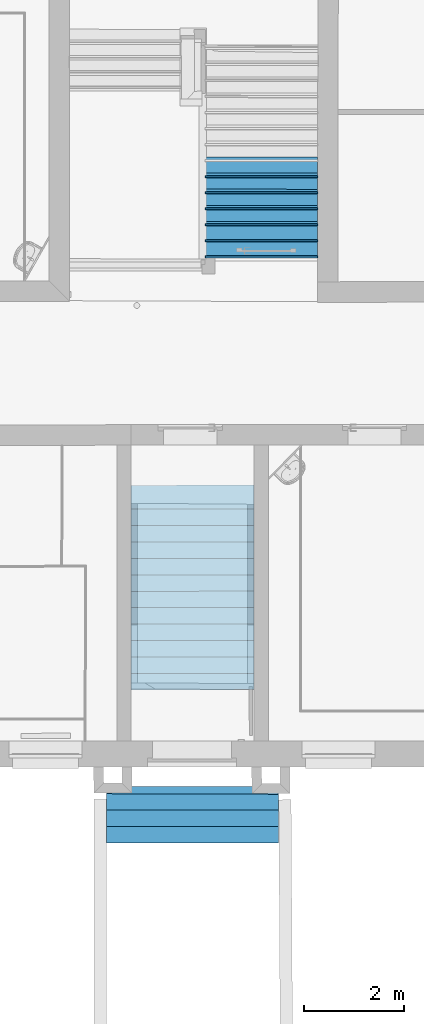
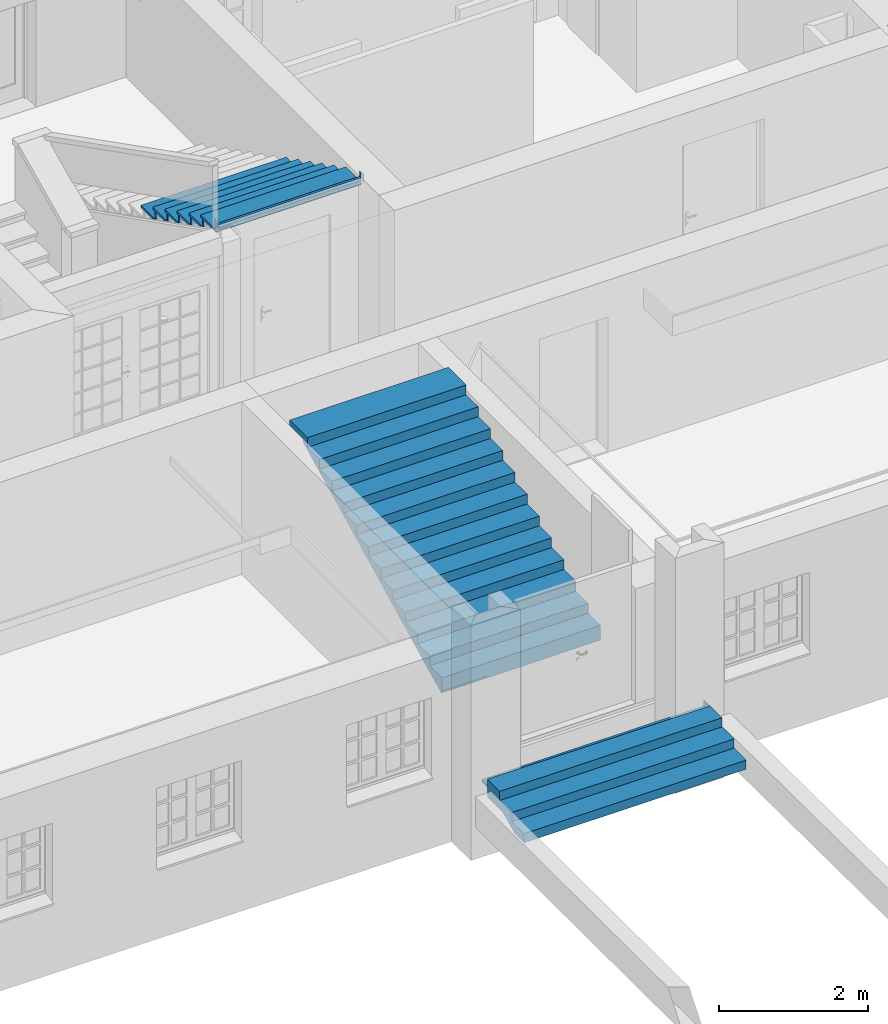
# One storey, part 135 of 196: 14 building element parts, 3 elements without a shape of their own.
"""IFC2X3 building model written with IfcOpenShell, lengths in metres."""

from ifc_helpers import new_model, entity, si_unit, converted_unit, derived_unit, money_unit, direction, frame, origin_with_axes, place, context, subcontext, project, spatial, open_shell, faceted_brep, surface_model, material, element, aggregate, save


model = new_model("IFC2X3")

# Units and contexts
model_context = context("Model", 3, precision=1e-05, world=origin_with_axes(), true_north=direction((0.0, 1.0)))
body_context = subcontext(model_context, "Body", "Model", "MODEL_VIEW")
ifc_project = project(units=[si_unit("LENGTHUNIT", "METRE"), si_unit("AREAUNIT", "SQUARE_METRE"), si_unit("VOLUMEUNIT", "CUBIC_METRE"), converted_unit("PLANEANGLEUNIT", "DEGREE", entity("IfcPlaneAngleMeasure", 0.0174532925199), si_unit("PLANEANGLEUNIT", "RADIAN"), dimensions=[0, 0, 0, 0, 0, 0, 0]), money_unit("EUR"), converted_unit("TIMEUNIT", "Year", entity("IfcTimeMeasure", 31556926.0), si_unit("TIMEUNIT", "SECOND"), dimensions=[0, 0, 1, 0, 0, 0, 0]), si_unit("MASSUNIT", "GRAM", prefix="KILO"), si_unit("THERMODYNAMICTEMPERATUREUNIT", "DEGREE_CELSIUS"), si_unit("LUMINOUSINTENSITYUNIT", "LUMEN"), si_unit("ENERGYUNIT", "JOULE", prefix="MEGA"), derived_unit("THERMALCONDUCTANCEUNIT", [(si_unit("POWERUNIT", "WATT"), 1), (si_unit("LENGTHUNIT", "METRE"), -1), (si_unit("THERMODYNAMICTEMPERATUREUNIT", "KELVIN"), -1)]), derived_unit("SPECIFICHEATCAPACITYUNIT", [(si_unit("ENERGYUNIT", "JOULE"), 1), (si_unit("MASSUNIT", "GRAM", prefix="KILO"), -1), (si_unit("THERMODYNAMICTEMPERATUREUNIT", "KELVIN"), -1)]), derived_unit("MASSDENSITYUNIT", [(si_unit("MASSUNIT", "GRAM", prefix="KILO"), 1), (si_unit("VOLUMEUNIT", "CUBIC_METRE"), -1)])], contexts=[model_context])

# Site, building, storey
site_placement = place(None, origin_with_axes())
site = spatial("IfcSite", under=ifc_project, at=site_placement, Name="Gelände", CompositionType="ELEMENT")
building_placement = place(site_placement, origin_with_axes())
building = spatial("IfcBuilding", under=site, at=building_placement, Name="Gebäude", CompositionType="ELEMENT")
storey_placement = place(building_placement, frame((0.0, 0.0, -3.0), z_axis=(0.0, 0.0, 1.0), x_axis=(1.0, 0.0, 0.0)))
storey = spatial("IfcBuildingStorey", under=building, at=storey_placement, Name="KELLERGESCHOSS", CompositionType="ELEMENT", Elevation=-3.0)

# Stair, building element part
stair_1_placement = place(storey_placement, frame((-9.10849058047, 8.42454757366, 0.45), z_axis=(0.0, 0.0, 1.0), x_axis=(1.0, 0.0, 0.0)))
stair_1 = element("IfcStair", 1, at=stair_1_placement, inside=storey, Name="Treppe-003", ShapeType="NOTDEFINED")
ifc_material = material(Name="05_ALLGEMEIN - TRAGENDE BAUTEILE")
building_element_part_1_placement = place(stair_1_placement, origin_with_axes())
building_element_part_1 = element("IfcBuildingElementPart", 2, at=building_element_part_1_placement, material=ifc_material, Name="05_ALLGEMEIN - TRAGENDE BAUTEILE", context=body_context, shape_type="SurfaceModel", body=[
    faceted_brep([(3.44006156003, 0.97279930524, 0.45), (0.0, 0.983829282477, 0.45), (0.0, 0.65305072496, 0.45), (3.453, 0.65305072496, 0.45), (3.453, 1.12957608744, 0.45), (3.4380452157, 1.12957608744, 0.45), (3.44006156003, 0.97279930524, 0.36), (0.0, 0.983829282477, 0.36), (0.0, 1.12957608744, 0.36), (0.0, 1.12957608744, 0.31), (0.0, 0.979576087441, 0.31), (0.0, 0.979576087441, 0.15), (0.0, 0.566079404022, 0.15), (0.0, 0.48978804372, 0.114953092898), (0.0, 0.4081567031, 0.0774530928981), (0.0, 0.32652536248, 0.0399530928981), (0.0, 0.24489402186, 0.00245309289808), (0.0, 0.239554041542, 0.0), (0.0, 0.0, 0.0), (0.0, 0.0, 0.15), (0.0, 0.32652536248, 0.15), (0.0, 0.32652536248, 0.3), (0.0, 0.65305072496, 0.3), (3.453, 0.65305072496, 0.3), (3.453, 0.566079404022, 0.15), (3.453, 0.979576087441, 0.15), (3.453, 0.979576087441, 0.31), (3.453, 1.12957608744, 0.31), (3.453, 0.32652536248, 0.3), (3.453, 0.32652536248, 0.15), (3.453, 0.0, 0.15), (3.453, 0.0, 0.0), (3.453, 0.239554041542, 0.0), (3.453, 0.24489402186, 0.00245309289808), (3.453, 0.32652536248, 0.0399530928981), (3.453, 0.4081567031, 0.0774530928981), (3.453, 0.48978804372, 0.114953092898), (3.4380452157, 1.12957608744, 0.36)], [[[0, 1, 2, 3, 4, 5]], [[1, 0, 6, 7]], [[7, 8, 9, 10, 11, 12, 13, 14, 15, 16, 17, 18, 19, 20, 21, 22, 2, 1]], [[3, 2, 22, 23]], [[24, 25, 26, 27, 4, 3, 23, 28, 29, 30, 31, 32, 33, 34, 35, 36]], [[37, 5, 4, 27, 9, 8]], [[0, 5, 37, 6]], [[37, 8, 7, 6]], [[10, 9, 27, 26]], [[10, 26, 25, 11]], [[12, 11, 25, 24]], [[24, 36, 13, 12]], [[13, 36, 35, 14]], [[14, 35, 34, 15]], [[15, 34, 33, 16]], [[16, 33, 32, 17]], [[32, 31, 18, 17]], [[18, 31, 30, 19]], [[19, 30, 29, 20]], [[28, 21, 20, 29]], [[21, 28, 23, 22]]]),
    surface_model("IfcShellBasedSurfaceModel", [(0.0, 0.0, 0.15), (0.0, 0.32652536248, 0.15), (3.453, 0.32652536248, 0.15), (3.453, 0.0, 0.15)], [open_shell([[[0, 1, 2, 3]]])]),
])
aggregate(stair_1, [building_element_part_1])

stair_2_placement = place(storey_placement, frame((-8.61171926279, 11.4891607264, 0.96831587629), z_axis=(0.0, 0.0, 1.0), x_axis=(1.0, 0.0, 0.0)))
stair_2 = element("IfcStair", 3, at=stair_2_placement, inside=storey, Name="Treppe-003", ShapeType="NOTDEFINED")
building_element_part_2_placement = place(stair_2_placement, origin_with_axes())
building_element_part_2 = element("IfcBuildingElementPart", 4, at=building_element_part_2_placement, material=ifc_material, Name="05_ALLGEMEIN - TRAGENDE BAUTEILE", context=body_context, shape_type="Brep", body=[
    faceted_brep([(2.46453561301, 0.00542222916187, -0.05831587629), (2.46453561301, 0.00542222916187, -0.0869231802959), (2.46387829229, 3.71539492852, 1.7848639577), (2.46387829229, 3.71539492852, 1.82168412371), (2.46381043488, 4.09841637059, 1.82168412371), (2.46381043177, 4.09841637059, 1.91168412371), (2.46389527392, 3.61954646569, 1.91168412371), (2.46389527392, 3.61954646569, 1.7523771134), (2.46395354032, 3.29067658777, 1.7523771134), (2.46395354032, 3.29067658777, 1.59307010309), (2.46401180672, 2.96180670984, 1.59307010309), (2.46401180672, 2.96180670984, 1.43376309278), (2.46407007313, 2.63293683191, 1.43376309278), (2.46407007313, 2.63293683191, 1.27445608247), (2.46412833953, 2.30406695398, 1.27445608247), (2.46412833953, 2.30406695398, 1.11514907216), (2.46418660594, 1.97519707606, 1.11514907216), (2.46418660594, 1.97519707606, 0.955842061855), (2.46424487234, 1.64632719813, 0.955842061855), (2.46424487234, 1.64632719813, 0.796535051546), (2.46430313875, 1.3174573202, 0.796535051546), (2.46430313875, 1.3174573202, 0.637228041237), (2.46436140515, 0.988587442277, 0.637228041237), (2.46436140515, 0.988587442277, 0.477921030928), (2.46441967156, 0.65971756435, 0.477921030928), (2.46441967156, 0.65971756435, 0.318614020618), (2.46447793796, 0.330847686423, 0.318614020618), (2.46447793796, 0.330847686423, 0.159307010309), (2.46453620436, 0.00197780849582, 0.159307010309), (2.4645362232, 0.00197780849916, -0.05831587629), (-1.57615885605e-05, 0.0196402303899, -0.05831587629), (-1.57615885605e-05, 0.0196402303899, -0.10160095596), (0.484705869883, 0.0168438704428, -0.103143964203), (0.369717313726, 0.0825141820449, -0.071288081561), (0.225956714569, 0.164616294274, -0.0314613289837), (0.0821961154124, 0.246718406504, 0.00836542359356), (-0.000235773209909, 0.293795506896, 0.0312019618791), (-0.00299855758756, 3.73648598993, 1.76811368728), (-0.00299855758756, 3.73648598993, 1.82168412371), (-0.0032874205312, 4.09643650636, 1.82168412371), (-0.00328742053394, 4.09643650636, 1.91168412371), (-0.00290312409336, 3.61756684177, 1.91168412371), (-0.00290312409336, 3.61756684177, 1.7523771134), (-0.00263920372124, 3.28869712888, 1.7523771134), (-0.00263920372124, 3.28869712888, 1.59307010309), (-0.00237528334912, 2.95982741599, 1.59307010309), (-0.00237528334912, 2.95982741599, 1.43376309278), (-0.00211136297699, 2.63095770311, 1.43376309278), (-0.00211136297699, 2.63095770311, 1.27445608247), (-0.00184744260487, 2.30208799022, 1.27445608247), (-0.00184744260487, 2.30208799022, 1.11514907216), (-0.00158352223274, 1.97321827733, 1.11514907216), (-0.00158352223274, 1.97321827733, 0.955842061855), (-0.00131960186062, 1.64434856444, 0.955842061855), (-0.00131960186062, 1.64434856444, 0.796535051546), (-0.00105568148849, 1.31547885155, 0.796535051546), (-0.00105568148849, 1.31547885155, 0.637228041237), (-0.000791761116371, 0.986609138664, 0.637228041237), (-0.000791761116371, 0.986609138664, 0.477921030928), (-0.000527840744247, 0.657739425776, 0.477921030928), (-0.000527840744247, 0.657739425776, 0.318614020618), (-0.000263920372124, 0.328869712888, 0.318614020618), (-0.000263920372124, 0.328869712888, 0.159307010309), (0.0, 0.0, 0.159307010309), (-1.55713664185e-10, 0.0, -0.05831587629), (-0.000197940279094, 0.246652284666, 0.00836542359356), (-0.000131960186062, 0.164434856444, -0.0314613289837), (-6.598009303e-05, 0.082217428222, -0.071288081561)], [[[0, 1, 2, 3, 4, 5, 6, 7, 8, 9, 10, 11, 12, 13, 14, 15, 16, 17, 18, 19, 20, 21, 22, 23, 24, 25, 26, 27, 28, 29]], [[1, 0, 30, 31, 32]], [[1, 32, 33, 34, 35, 36, 37, 2]], [[2, 37, 38, 3]], [[3, 38, 39, 4]], [[4, 39, 40, 5]], [[5, 40, 41, 6]], [[6, 41, 42, 7]], [[7, 42, 43, 8]], [[8, 43, 44, 9]], [[9, 44, 45, 10]], [[10, 45, 46, 11]], [[11, 46, 47, 12]], [[12, 47, 48, 13]], [[13, 48, 49, 14]], [[14, 49, 50, 15]], [[15, 50, 51, 16]], [[16, 51, 52, 17]], [[17, 52, 53, 18]], [[18, 53, 54, 19]], [[19, 54, 55, 20]], [[20, 55, 56, 21]], [[21, 56, 57, 22]], [[22, 57, 58, 23]], [[23, 58, 59, 24]], [[24, 59, 60, 25]], [[25, 60, 61, 26]], [[26, 61, 62, 27]], [[27, 62, 63, 28]], [[64, 29, 28, 63]], [[0, 29, 64, 30]], [[30, 64, 63, 62, 61, 60, 59, 58, 57, 56, 55, 54, 53, 52, 51, 50, 49, 48, 47, 46, 45, 44, 43, 42, 41, 40, 39, 38, 37, 36, 65, 66, 67, 31]], [[32, 31, 67, 33]], [[34, 33, 67, 66]], [[35, 34, 66, 65]], [[65, 36, 35]]]),
])
aggregate(stair_2, [building_element_part_2])

# Stair, building element parts
stair_3_placement = place(storey_placement, frame((-4.87307705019, 23.804592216, 0.6), z_axis=(0.0, 0.0, 1.0), x_axis=(-0.999999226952, 0.00124342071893, 0.0)))
stair_3 = element("IfcStair", 5, at=stair_3_placement, inside=storey, Name="Treppe-003", ShapeType="NOTDEFINED")
building_element_part_3_placement = place(stair_3_placement, origin_with_axes())
building_element_part_3 = element("IfcBuildingElementPart", 6, at=building_element_part_3_placement, material=ifc_material, Name="05_ALLGEMEIN - TRAGENDE BAUTEILE", context=body_context, shape_type="Brep", body=[
    faceted_brep([(0.00361395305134, 2.05693839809, 1.30285714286), (2.25346337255, 2.0358123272, 1.30285714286), (2.2534759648, 2.02127804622, 1.30285714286), (-0.00152318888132, 2.01932435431, 1.30285714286), (-0.00155784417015, 2.0593243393, 1.30285714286), (0.0036120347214, 2.05932881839, 1.30285714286), (0.0036120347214, 2.05932881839, 1.30408340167), (2.25344130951, 2.06127803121, 1.31592075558), (2.25344130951, 2.06127803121, 1.42571428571), (2.2534759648, 2.02127804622, 1.42571428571), (-0.00152318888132, 2.01932435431, 1.42571428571), (-0.00155784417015, 2.0593243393, 1.42571428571)], [[[0, 1, 2, 3, 4, 5]], [[1, 0, 6, 7]], [[1, 7, 8, 9, 2]], [[3, 2, 9, 10]], [[3, 10, 11, 4]], [[6, 5, 4, 11, 8, 7]], [[0, 5, 6]], [[10, 9, 8, 11]]]),
])
building_element_part_4_placement = place(stair_3_placement, origin_with_axes())
building_element_part_4 = element("IfcBuildingElementPart", 7, at=building_element_part_4_placement, material=ifc_material, Name="05_ALLGEMEIN - TRAGENDE BAUTEILE", context=body_context, shape_type="Brep", body=[
    faceted_brep([(0.00335918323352, 2.37440565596, 1.46571428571), (2.25318832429, 2.35327977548, 1.46571428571), (2.25319768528, 2.34247509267, 1.46571428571), (-0.00180146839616, 2.34052140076, 1.46571428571), (-0.00183612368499, 2.38052138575, 1.46571428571), (0.00335427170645, 2.38052588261, 1.46571428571), (0.00335427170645, 2.38052588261, 1.46885389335), (2.25316302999, 2.38247507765, 1.48069113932), (2.25316302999, 2.38247507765, 1.58857142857), (2.25319768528, 2.34247509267, 1.58857142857), (-0.00180146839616, 2.34052140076, 1.58857142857), (-0.00183612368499, 2.38052138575, 1.58857142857)], [[[0, 1, 2, 3, 4, 5]], [[1, 0, 6, 7]], [[1, 7, 8, 9, 2]], [[3, 2, 9, 10]], [[3, 10, 11, 4]], [[6, 5, 4, 11, 8, 7]], [[0, 5, 6]], [[10, 9, 8, 11]]]),
])
building_element_part_5_placement = place(stair_3_placement, origin_with_axes())
building_element_part_5 = element("IfcBuildingElementPart", 8, at=building_element_part_5_placement, material=ifc_material, Name="05_ALLGEMEIN - TRAGENDE BAUTEILE", context=body_context, shape_type="Brep", body=[
    faceted_brep([(0.00310441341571, 2.69187291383, 1.62857142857), (2.25291327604, 2.67074722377, 1.62857142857), (2.25291940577, 2.66367213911, 1.62857142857), (-0.00207974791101, 2.66171844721, 1.62857142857), (-0.00211440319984, 2.70171843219, 1.62857142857), (0.00309650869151, 2.70172294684, 1.62857142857), (0.00309650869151, 2.70172294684, 1.63362438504), (2.25288475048, 2.7036721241, 1.64546152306), (2.25288475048, 2.7036721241, 1.75142857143), (2.25291940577, 2.66367213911, 1.75142857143), (-0.00207974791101, 2.66171844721, 1.75142857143), (-0.00211440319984, 2.70171843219, 1.75142857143)], [[[0, 1, 2, 3, 4, 5]], [[1, 0, 6, 7]], [[1, 7, 8, 9, 2]], [[3, 2, 9, 10]], [[3, 10, 11, 4]], [[6, 5, 4, 11, 8, 7]], [[0, 5, 6]], [[10, 9, 8, 11]]]),
])
building_element_part_6_placement = place(stair_3_placement, origin_with_axes())
building_element_part_6 = element("IfcBuildingElementPart", 9, at=building_element_part_6_placement, material=ifc_material, Name="05_ALLGEMEIN - TRAGENDE BAUTEILE", context=body_context, shape_type="Brep", body=[
    faceted_brep([(0.0028496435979, 3.0093401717, 1.79142857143), (2.25263822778, 2.98821467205, 1.79142857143), (2.25264112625, 2.98486918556, 1.79142857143), (-0.00235802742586, 2.98291549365, 1.79142857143), (-0.00239268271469, 3.02291547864, 1.79142857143), (0.00283874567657, 3.02292001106, 1.79142857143), (0.00283874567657, 3.02292001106, 1.79839487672), (2.25260647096, 3.02486917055, 1.81023190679), (2.25260647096, 3.02486917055, 1.91428571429), (2.25264112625, 2.98486918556, 1.91428571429), (-0.00235802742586, 2.98291549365, 1.91428571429), (-0.00239268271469, 3.02291547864, 1.91428571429)], [[[0, 1, 2, 3, 4, 5]], [[1, 0, 6, 7]], [[1, 7, 8, 9, 2]], [[3, 2, 9, 10]], [[3, 10, 11, 4]], [[6, 5, 4, 11, 8, 7]], [[0, 5, 6]], [[10, 9, 8, 11]]]),
])
building_element_part_7_placement = place(stair_3_placement, origin_with_axes())
building_element_part_7 = element("IfcBuildingElementPart", 10, at=building_element_part_7_placement, material=ifc_material, Name="05_ALLGEMEIN - TRAGENDE BAUTEILE", context=body_context, shape_type="Brep", body=[
    faceted_brep([(0.00259487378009, 3.32680742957, 1.95428571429), (2.21491213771, 3.30603378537, 1.95428571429), (-0.0026363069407, 3.3041125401, 1.95428571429), (-0.00267096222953, 3.34411252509, 1.95428571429), (0.00258098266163, 3.34411707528, 1.95428571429), (0.00258098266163, 3.34411707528, 1.96316536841), (2.25232819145, 3.346066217, 1.97500229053), (2.25236284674, 3.30606623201, 1.95448275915), (2.25236284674, 3.30606623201, 2.07714285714), (-0.0026363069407, 3.3041125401, 2.07714285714), (-0.00267096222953, 3.34411252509, 2.07714285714), (2.25232819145, 3.346066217, 2.07714285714)], [[[0, 1, 2, 3, 4]], [[1, 0, 5, 6, 7]], [[1, 7, 8, 9, 2]], [[2, 9, 10, 3]], [[5, 4, 3, 10, 11, 6]], [[0, 4, 5]], [[7, 6, 11, 8]], [[9, 8, 11, 10]]]),
])
building_element_part_8_placement = place(stair_3_placement, origin_with_axes())
building_element_part_8 = element("IfcBuildingElementPart", 11, at=building_element_part_8_placement, material=ifc_material, Name="05_ALLGEMEIN - TRAGENDE BAUTEILE", context=body_context, shape_type="Brep", body=[
    faceted_brep([(2.24912170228, 3.62726071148, 2.19), (-0.00264467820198, 3.62530982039, 2.19), (-0.00264467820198, 3.62530982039, 2.28), (-0.00291458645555, 3.62530958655, 2.28), (-0.00291458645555, 3.62530958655, 2.11714285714), (2.25208456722, 3.62726327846, 2.11714285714), (2.25208456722, 3.62726327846, 2.28), (2.24912170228, 3.62726071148, 2.28), (2.24908700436, 3.66726069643, 2.19), (-0.00267677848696, 3.66530980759, 2.19), (-0.00267677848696, 3.66530980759, 2.28), (-0.00294924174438, 3.66530957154, 2.28), (-0.00294924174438, 3.66530957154, 2.11714285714), (2.25204991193, 3.66726326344, 2.11714285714), (2.25204991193, 3.66726326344, 2.28), (2.24908700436, 3.66726069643, 2.28)], [[[0, 1, 2, 3, 4, 5, 6, 7]], [[1, 0, 8, 9]], [[10, 2, 1, 9]], [[2, 10, 11, 3]], [[4, 3, 11, 12]], [[12, 13, 5, 4]], [[14, 6, 5, 13]], [[15, 7, 6, 14]], [[0, 7, 15, 8]], [[8, 15, 14, 13, 12, 11, 10, 9]]]),
])
building_element_part_9_placement = place(stair_3_placement, origin_with_axes())
building_element_part_9 = element("IfcBuildingElementPart", 12, at=building_element_part_9_placement, material=ifc_material, Name="05_ALLGEMEIN - TRAGENDE BAUTEILE", context=body_context, shape_type="Brep", body=[
    faceted_brep([(0.00367652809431, 1.97896398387, 1.26285714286), (2.25353092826, 1.95783786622, 1.26285714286), (2.25379756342, 1.65008101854, 1.26285714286), (-0.00120159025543, 1.64812732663, 1.26285714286), (-0.00155784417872, 2.05932434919, 1.26285714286), (0.0036120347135, 2.05932882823, 1.26285714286), (0.00361395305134, 2.05693839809, 1.30285714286), (2.25346337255, 2.0358123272, 1.30285714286), (2.25379756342, 1.65008101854, 1.30285714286), (-0.00120159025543, 1.64812732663, 1.30285714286), (-0.00155784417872, 2.05932434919, 1.30285714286), (0.0036120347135, 2.05932882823, 1.30285714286)], [[[0, 1, 2, 3, 4, 5]], [[1, 0, 6, 7]], [[1, 7, 8, 2]], [[9, 3, 2, 8]], [[10, 4, 3, 9]], [[11, 5, 4, 10]], [[0, 5, 11, 6]], [[6, 11, 10, 9, 8, 7]]]),
])
building_element_part_10_placement = place(stair_3_placement, origin_with_axes())
building_element_part_10 = element("IfcBuildingElementPart", 13, at=building_element_part_10_placement, material=ifc_material, Name="05_ALLGEMEIN - TRAGENDE BAUTEILE", context=body_context, shape_type="Brep", body=[
    faceted_brep([(0.00342175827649, 2.29643124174, 1.42571428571), (2.25325588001, 2.2753053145, 1.42571428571), (2.25351928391, 1.97127806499, 1.42571428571), (-0.00147986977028, 1.96932437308, 1.42571428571), (-0.00183612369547, 2.38052139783, 1.42571428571), (0.0033542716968, 2.38052589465, 1.42571428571), (0.00335918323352, 2.37440565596, 1.46571428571), (2.25318832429, 2.35327977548, 1.46571428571), (2.25351928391, 1.97127806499, 1.46571428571), (-0.00147986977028, 1.96932437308, 1.46571428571), (-0.00183612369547, 2.38052139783, 1.46571428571), (0.0033542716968, 2.38052589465, 1.46571428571)], [[[0, 1, 2, 3, 4, 5]], [[1, 0, 6, 7]], [[1, 7, 8, 2]], [[9, 3, 2, 8]], [[10, 4, 3, 9]], [[11, 5, 4, 10]], [[0, 5, 11, 6]], [[6, 11, 10, 9, 8, 7]]]),
])
building_element_part_11_placement = place(stair_3_placement, origin_with_axes())
building_element_part_11 = element("IfcBuildingElementPart", 14, at=building_element_part_11_placement, material=ifc_material, Name="05_ALLGEMEIN - TRAGENDE BAUTEILE", context=body_context, shape_type="Brep", body=[
    faceted_brep([(0.00316698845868, 2.61389849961, 1.58857142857), (2.25298083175, 2.59277276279, 1.58857142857), (2.25324100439, 2.29247511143, 1.58857142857), (-0.00175814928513, 2.29052141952, 1.58857142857), (-0.00211440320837, 2.70171844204, 1.58857142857), (0.00309650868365, 2.70172295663, 1.58857142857), (0.00310441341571, 2.69187291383, 1.62857142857), (2.25291327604, 2.67074722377, 1.62857142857), (2.25324100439, 2.29247511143, 1.62857142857), (-0.00175814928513, 2.29052141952, 1.62857142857), (-0.00211440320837, 2.70171844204, 1.62857142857), (0.00309650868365, 2.70172295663, 1.62857142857)], [[[0, 1, 2, 3, 4, 5]], [[1, 0, 6, 7]], [[1, 7, 8, 2]], [[9, 3, 2, 8]], [[10, 4, 3, 9]], [[11, 5, 4, 10]], [[0, 5, 11, 6]], [[6, 11, 10, 9, 8, 7]]]),
])
building_element_part_12_placement = place(stair_3_placement, origin_with_axes())
building_element_part_12 = element("IfcBuildingElementPart", 15, at=building_element_part_12_placement, material=ifc_material, Name="05_ALLGEMEIN - TRAGENDE BAUTEILE", context=body_context, shape_type="Brep", body=[
    faceted_brep([(0.00291221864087, 2.93136575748, 1.75142857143), (2.25270578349, 2.91024021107, 1.75142857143), (2.25296272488, 2.61367215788, 1.75142857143), (-0.00203642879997, 2.61171846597, 1.75142857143), (-0.00239268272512, 3.02291549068, 1.75142857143), (0.00283874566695, 3.02292002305, 1.75142857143), (0.0028496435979, 3.0093401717, 1.79142857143), (2.25263822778, 2.98821467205, 1.79142857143), (2.25296272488, 2.61367215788, 1.79142857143), (-0.00203642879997, 2.61171846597, 1.79142857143), (-0.00239268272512, 3.02291549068, 1.79142857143), (0.00283874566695, 3.02292002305, 1.79142857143)], [[[0, 1, 2, 3, 4, 5]], [[1, 0, 6, 7]], [[1, 7, 8, 2]], [[9, 3, 2, 8]], [[10, 4, 3, 9]], [[11, 5, 4, 10]], [[0, 5, 11, 6]], [[6, 11, 10, 9, 8, 7]]]),
])
building_element_part_13_placement = place(stair_3_placement, origin_with_axes())
building_element_part_13 = element("IfcBuildingElementPart", 16, at=building_element_part_13_placement, material=ifc_material, Name="05_ALLGEMEIN - TRAGENDE BAUTEILE", context=body_context, shape_type="Brep", body=[
    faceted_brep([(0.00265744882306, 3.24883301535, 1.91428571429), (2.25243073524, 3.22770765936, 1.91428571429), (2.25268444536, 2.93486920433, 1.91428571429), (-0.00231470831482, 2.93291551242, 1.91428571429), (-0.00267096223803, 3.34411253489, 1.91428571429), (0.00258098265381, 3.34411708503, 1.91428571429), (0.00259487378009, 3.32680742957, 1.95428571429), (2.25236317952, 3.30568212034, 1.95428571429), (2.25268444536, 2.93486920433, 1.95428571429), (-0.00231470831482, 2.93291551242, 1.95428571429), (-0.00267096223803, 3.34411253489, 1.95428571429), (0.00258098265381, 3.34411708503, 1.95428571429)], [[[0, 1, 2, 3, 4, 5]], [[1, 0, 6, 7]], [[1, 7, 8, 2]], [[9, 3, 2, 8]], [[10, 4, 3, 9]], [[11, 5, 4, 10]], [[0, 5, 11, 6]], [[6, 11, 10, 9, 8, 7]]]),
])
building_element_part_14_placement = place(stair_3_placement, origin_with_axes())
building_element_part_14 = element("IfcBuildingElementPart", 17, at=building_element_part_14_placement, material=ifc_material, Name="05_ALLGEMEIN - TRAGENDE BAUTEILE", context=body_context, shape_type="Brep", body=[
    faceted_brep([(2.25211812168, 3.58853390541, 2.07714285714), (0.00237735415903, 3.59785742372, 2.07714285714), (0.00240267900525, 3.56630027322, 2.07714285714), (2.25215568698, 3.54517510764, 2.07714285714), (2.25240616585, 3.25606625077, 2.07714285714), (-0.00259298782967, 3.25411255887, 2.07714285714), (-0.00287126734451, 3.57530960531, 2.07714285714), (-0.00294924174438, 3.66530957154, 2.07714285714), (2.25204991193, 3.66726326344, 2.07714285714), (2.25211812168, 3.58853390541, 2.09938542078), (0.00237735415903, 3.59785742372, 2.09333132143), (2.25212788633, 3.57726329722, 2.09360372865), (2.25212788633, 3.57726329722, 2.11714285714), (2.25240616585, 3.25606625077, 2.11714285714), (-0.00259298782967, 3.25411255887, 2.11714285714), (-0.00287126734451, 3.57530960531, 2.11714285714), (-0.00294924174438, 3.66530957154, 2.11714285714), (2.25204991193, 3.66726326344, 2.11714285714)], [[[0, 1, 2, 3, 4, 5, 6, 7, 8]], [[1, 0, 9, 10]], [[2, 1, 10]], [[3, 2, 10, 9, 11]], [[3, 11, 12, 13, 4]], [[14, 5, 4, 13]], [[15, 6, 5, 14]], [[16, 7, 6, 15]], [[17, 8, 7, 16]], [[9, 0, 8, 17, 12, 11]], [[15, 14, 13, 12, 17, 16]]]),
])
aggregate(stair_3, [building_element_part_3, building_element_part_4, building_element_part_5, building_element_part_6, building_element_part_7, building_element_part_8, building_element_part_9, building_element_part_10, building_element_part_11, building_element_part_12, building_element_part_13, building_element_part_14])

save(model, "model.ifc")
